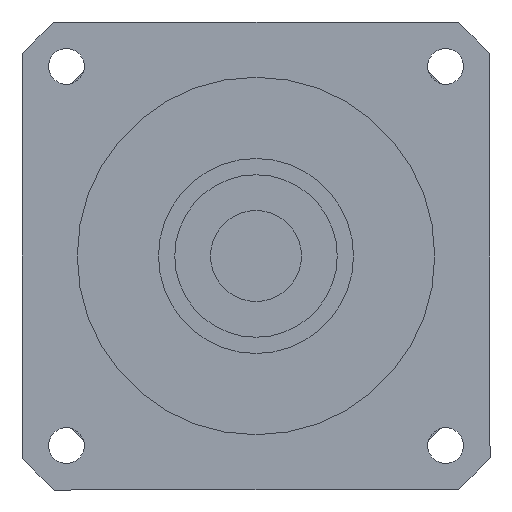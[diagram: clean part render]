
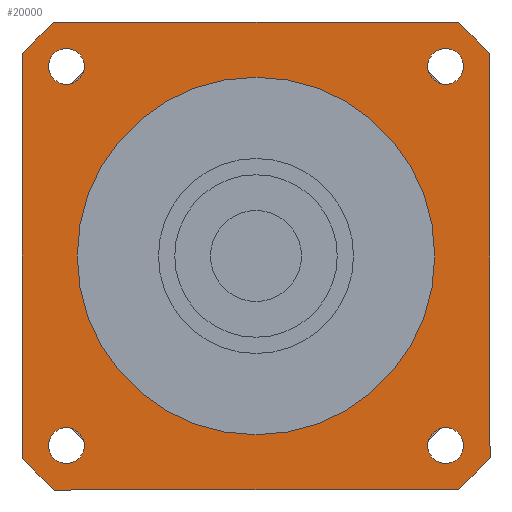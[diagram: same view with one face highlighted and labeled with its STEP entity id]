
A CAD part, left-side view. The second image highlights one B-rep face of the part: STEP entity #20000.
In plain terms, the highlighted planar face has unit normal (-1, 0, 0) as drawn and (0, 0, -1) by its records, which use the part's own axes.
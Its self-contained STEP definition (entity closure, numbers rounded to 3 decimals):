
#15970=CARTESIAN_POINT('',(61.976,-72.,-122.));
#15980=VERTEX_POINT('',#15970);
#16160=CARTESIAN_POINT('',(72.,-61.976,-122.));
#16170=VERTEX_POINT('',#16160);
#16200=CARTESIAN_POINT('',(0.,0.,
-122.));
#16210=DIRECTION('',(0.,0.,1.));
#16220=DIRECTION('',(1.,0.,0.));
#16230=AXIS2_PLACEMENT_3D('',#16200,#16210,#16220);
#16240=CIRCLE('',#16230,95.);
#16250=EDGE_CURVE('',#15980,#16170,#16240,.T.);
#16480=CARTESIAN_POINT('',(72.,61.976,-122.));
#16490=VERTEX_POINT('',#16480);
#16520=CARTESIAN_POINT('',(72.,-71.,-122.));
#16530=DIRECTION('',(0.,1.,0.));
#16540=VECTOR('',#16530,1000.);
#16550=LINE('',#16520,#16540);
#16560=EDGE_CURVE('',#16170,#16490,#16550,.T.);
#18370=CARTESIAN_POINT('',(-52.836,-58.336,-122.));
#18380=VERTEX_POINT('',#18370);
#18460=CARTESIAN_POINT('',(-63.836,-58.336,-122.));
#18470=VERTEX_POINT('',#18460);
#18500=CARTESIAN_POINT('',(-58.336,-58.336,-122.));
#18510=DIRECTION('',(0.,0.,-1.));
#18520=DIRECTION('',(0.,-1.,0.));
#18530=AXIS2_PLACEMENT_3D('',#18500,#18510,#18520);
#18540=CIRCLE('',#18530,5.5);
#18550=CARTESIAN_POINT('',(-58.336,-63.836,-122.));
#18560=VERTEX_POINT('',#18550);
#18570=EDGE_CURVE('',#18560,#18470,#18540,.T.);
#18590=EDGE_CURVE('',#18380,#18560,#18540,.T.);
#18640=CARTESIAN_POINT('',(-71.,71.,-122.));
#18650=DIRECTION('',(0.,0.,1.));
#18660=DIRECTION('',(-1.,0.,0.));
#18670=AXIS2_PLACEMENT_3D('',#18640,#18650,#18660);
#18680=PLANE('',#18670);
#18690=CARTESIAN_POINT('',(58.336,58.336,-122.));
#18700=DIRECTION('',(0.,0.,-1.));
#18710=DIRECTION('',(0.,1.,0.));
#18720=AXIS2_PLACEMENT_3D('',#18690,#18700,#18710);
#18730=CIRCLE('',#18720,5.5);
#18740=CARTESIAN_POINT('',(58.336,63.836,-122.));
#18750=VERTEX_POINT('',#18740);
#18760=CARTESIAN_POINT('',(63.836,58.336,-122.));
#18770=VERTEX_POINT('',#18760);
#18780=EDGE_CURVE('',#18750,#18770,#18730,.T.);
#18790=ORIENTED_EDGE('',*,*,#18780,.F.);
#18800=CARTESIAN_POINT('',(52.836,58.336,-122.));
#18810=VERTEX_POINT('',#18800);
#18820=EDGE_CURVE('',#18770,#18810,#18730,.T.);
#18830=ORIENTED_EDGE('',*,*,#18820,.F.);
#18840=EDGE_CURVE('',#18810,#18750,#18730,.T.);
#18850=ORIENTED_EDGE('',*,*,#18840,.F.);
#18860=EDGE_LOOP('',(#18850,#18830,#18790));
#18870=FACE_BOUND('',#18860,.T.);
#18880=CARTESIAN_POINT('',(-58.336,58.336,-122.));
#18890=DIRECTION('',(0.,0.,-1.));
#18900=DIRECTION('',(-1.,0.,0.));
#18910=AXIS2_PLACEMENT_3D('',#18880,#18890,#18900);
#18920=CIRCLE('',#18910,5.5);
#18930=CARTESIAN_POINT('',(-63.836,58.336,-122.));
#18940=VERTEX_POINT('',#18930);
#18950=CARTESIAN_POINT('',(-58.336,63.836,-122.));
#18960=VERTEX_POINT('',#18950);
#18970=EDGE_CURVE('',#18940,#18960,#18920,.T.);
#18980=ORIENTED_EDGE('',*,*,#18970,.F.);
#18990=CARTESIAN_POINT('',(-58.336,52.836,-122.));
#19000=VERTEX_POINT('',#18990);
#19010=EDGE_CURVE('',#18960,#19000,#18920,.T.);
#19020=ORIENTED_EDGE('',*,*,#19010,.F.);
#19030=EDGE_CURVE('',#19000,#18940,#18920,.T.);
#19040=ORIENTED_EDGE('',*,*,#19030,.F.);
#19050=EDGE_LOOP('',(#19040,#19020,#18980));
#19060=FACE_BOUND('',#19050,.T.);
#19070=ORIENTED_EDGE('',*,*,#18570,.F.);
#19080=EDGE_CURVE('',#18470,#18380,#18540,.T.);
#19090=ORIENTED_EDGE('',*,*,#19080,.F.);
#19100=ORIENTED_EDGE('',*,*,#18590,.F.);
#19110=EDGE_LOOP('',(#19100,#19090,#19070));
#19120=FACE_BOUND('',#19110,.T.);
#19130=CARTESIAN_POINT('',(0.,0.,
-122.));
#19140=DIRECTION('',(0.,0.,1.));
#19150=DIRECTION('',(1.,0.,0.));
#19160=AXIS2_PLACEMENT_3D('',#19130,#19140,#19150);
#19170=CIRCLE('',#19160,55.);
#19180=CARTESIAN_POINT('',(55.,0.,-122.));
#19190=VERTEX_POINT('',#19180);
#19200=CARTESIAN_POINT('',(-55.,0.,-122.));
#19210=VERTEX_POINT('',#19200);
#19220=EDGE_CURVE('',#19190,#19210,#19170,.T.);
#19230=ORIENTED_EDGE('',*,*,#19220,.T.);
#19240=EDGE_CURVE('',#19210,#19190,#19170,.T.);
#19250=ORIENTED_EDGE('',*,*,#19240,.T.);
#19260=EDGE_LOOP('',(#19250,#19230));
#19270=FACE_BOUND('',#19260,.T.);
#19280=CARTESIAN_POINT('',(58.336,-58.336,-122.));
#19290=DIRECTION('',(0.,0.,-1.));
#19300=DIRECTION('',(1.,0.,0.));
#19310=AXIS2_PLACEMENT_3D('',#19280,#19290,#19300);
#19320=CIRCLE('',#19310,5.5);
#19330=CARTESIAN_POINT('',(63.836,-58.336,-122.));
#19340=VERTEX_POINT('',#19330);
#19350=CARTESIAN_POINT('',(58.336,-63.836,-122.));
#19360=VERTEX_POINT('',#19350);
#19370=EDGE_CURVE('',#19340,#19360,#19320,.T.);
#19380=ORIENTED_EDGE('',*,*,#19370,.F.);
#19390=CARTESIAN_POINT('',(58.336,-52.836,-122.));
#19400=VERTEX_POINT('',#19390);
#19410=EDGE_CURVE('',#19360,#19400,#19320,.T.);
#19420=ORIENTED_EDGE('',*,*,#19410,.F.);
#19430=EDGE_CURVE('',#19400,#19340,#19320,.T.);
#19440=ORIENTED_EDGE('',*,*,#19430,.F.);
#19450=EDGE_LOOP('',(#19440,#19420,#19380));
#19460=FACE_BOUND('',#19450,.T.);
#19470=CARTESIAN_POINT('',(0.,0.,
-122.));
#19480=DIRECTION('',(0.,0.,1.));
#19490=DIRECTION('',(1.,0.,0.));
#19500=AXIS2_PLACEMENT_3D('',#19470,#19480,#19490);
#19510=CIRCLE('',#19500,95.);
#19520=CARTESIAN_POINT('',(-72.,-61.976,-122.));
#19530=VERTEX_POINT('',#19520);
#19540=CARTESIAN_POINT('',(-61.976,-72.,-122.));
#19550=VERTEX_POINT('',#19540);
#19560=EDGE_CURVE('',#19530,#19550,#19510,.T.);
#19570=ORIENTED_EDGE('',*,*,#19560,.F.);
#19580=CARTESIAN_POINT('',(-71.,-72.,-122.));
#19590=DIRECTION('',(1.,0.,0.));
#19600=VECTOR('',#19590,1000.);
#19610=LINE('',#19580,#19600);
#19620=EDGE_CURVE('',#19550,#15980,#19610,.T.);
#19630=ORIENTED_EDGE('',*,*,#19620,.F.);
#19640=ORIENTED_EDGE('',*,*,#16250,.F.);
#19650=ORIENTED_EDGE('',*,*,#16560,.F.);
#19660=CARTESIAN_POINT('',(0.,0.,
-122.));
#19670=DIRECTION('',(0.,0.,1.));
#19680=DIRECTION('',(1.,0.,0.));
#19690=AXIS2_PLACEMENT_3D('',#19660,#19670,#19680);
#19700=CIRCLE('',#19690,95.);
#19710=CARTESIAN_POINT('',(61.976,72.,-122.));
#19720=VERTEX_POINT('',#19710);
#19730=EDGE_CURVE('',#16490,#19720,#19700,.T.);
#19740=ORIENTED_EDGE('',*,*,#19730,.F.);
#19750=CARTESIAN_POINT('',(71.,72.,-122.));
#19760=DIRECTION('',(-1.,0.,0.));
#19770=VECTOR('',#19760,1000.);
#19780=LINE('',#19750,#19770);
#19790=CARTESIAN_POINT('',(-61.976,72.,-122.));
#19800=VERTEX_POINT('',#19790);
#19810=EDGE_CURVE('',#19720,#19800,#19780,.T.);
#19820=ORIENTED_EDGE('',*,*,#19810,.F.);
#19830=CARTESIAN_POINT('',(0.,0.,
-122.));
#19840=DIRECTION('',(0.,0.,1.));
#19850=DIRECTION('',(1.,0.,0.));
#19860=AXIS2_PLACEMENT_3D('',#19830,#19840,#19850);
#19870=CIRCLE('',#19860,95.);
#19880=CARTESIAN_POINT('',(-72.,61.976,-122.));
#19890=VERTEX_POINT('',#19880);
#19900=EDGE_CURVE('',#19800,#19890,#19870,.T.);
#19910=ORIENTED_EDGE('',*,*,#19900,.F.);
#19920=CARTESIAN_POINT('',(-72.,71.,-122.));
#19930=DIRECTION('',(0.,-1.,0.));
#19940=VECTOR('',#19930,1000.);
#19950=LINE('',#19920,#19940);
#19960=EDGE_CURVE('',#19890,#19530,#19950,.T.);
#19970=ORIENTED_EDGE('',*,*,#19960,.F.);
#19980=EDGE_LOOP('',(#19970,#19910,#19820,#19740,#19650,#19640,#19630,
#19570));
#19990=FACE_OUTER_BOUND('',#19980,.T.);
#20000=ADVANCED_FACE('',(#18870,#19060,#19120,#19270,#19460,#19990),
#18680,.F.);
